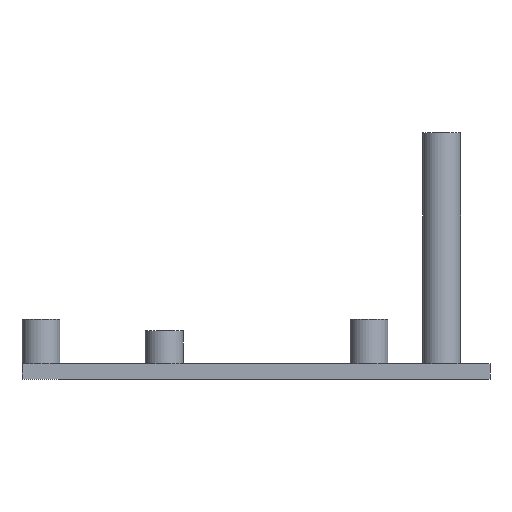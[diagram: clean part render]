
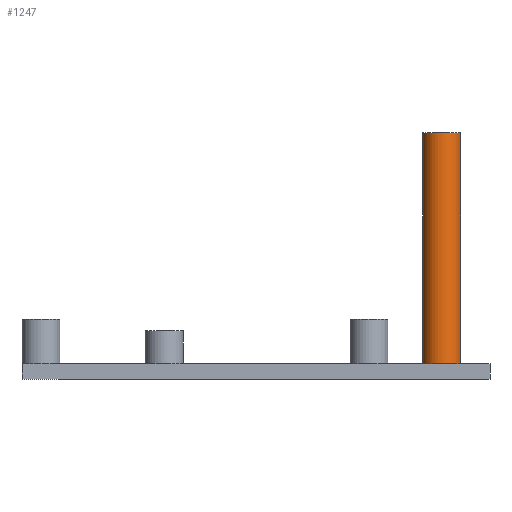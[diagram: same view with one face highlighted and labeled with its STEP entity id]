
A CAD part, front view. The second image highlights one B-rep face of the part: STEP entity #1247.
In plain terms, the highlighted cylindrical face has radius 3 mm (diameter 6 mm), a full revolution.
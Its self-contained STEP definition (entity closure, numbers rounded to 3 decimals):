
#45 = PLANE('',#46);
#46 = AXIS2_PLACEMENT_3D('',#47,#48,#49);
#47 = CARTESIAN_POINT('',(-25.438,-35.,5.46));
#48 = DIRECTION('',(0.,0.,1.));
#49 = DIRECTION('',(1.,0.,0.));
#522 = EDGE_CURVE('',#523,#523,#525,.T.);
#523 = VERTEX_POINT('',#524);
#524 = CARTESIAN_POINT('',(7.,-35.,5.46));
#525 = SURFACE_CURVE('',#526,(#531,#538),.PCURVE_S1.);
#526 = CIRCLE('',#527,3.);
#527 = AXIS2_PLACEMENT_3D('',#528,#529,#530);
#528 = CARTESIAN_POINT('',(4.,-35.,5.46));
#529 = DIRECTION('',(0.,0.,1.));
#530 = DIRECTION('',(1.,0.,0.));
#531 = PCURVE('',#45,#532);
#532 = DEFINITIONAL_REPRESENTATION('',(#533),#537);
#533 = CIRCLE('',#534,3.);
#534 = AXIS2_PLACEMENT_2D('',#535,#536);
#535 = CARTESIAN_POINT('',(29.438,0.));
#536 = DIRECTION('',(1.,0.));
#537 = ( GEOMETRIC_REPRESENTATION_CONTEXT(2) 
PARAMETRIC_REPRESENTATION_CONTEXT() REPRESENTATION_CONTEXT('2D SPACE',''
  ) );
#538 = PCURVE('',#539,#544);
#539 = CYLINDRICAL_SURFACE('',#540,3.);
#540 = AXIS2_PLACEMENT_3D('',#541,#542,#543);
#541 = CARTESIAN_POINT('',(4.,-35.,5.46));
#542 = DIRECTION('',(-0.,-0.,-1.));
#543 = DIRECTION('',(1.,0.,0.));
#544 = DEFINITIONAL_REPRESENTATION('',(#545),#549);
#545 = LINE('',#546,#547);
#546 = CARTESIAN_POINT('',(-0.,0.));
#547 = VECTOR('',#548,1.);
#548 = DIRECTION('',(-1.,0.));
#549 = ( GEOMETRIC_REPRESENTATION_CONTEXT(2) 
PARAMETRIC_REPRESENTATION_CONTEXT() REPRESENTATION_CONTEXT('2D SPACE',''
  ) );
#1247 = ADVANCED_FACE('',(#1248),#539,.T.);
#1248 = FACE_BOUND('',#1249,.F.);
#1249 = EDGE_LOOP('',(#1250,#1273,#1300,#1301));
#1250 = ORIENTED_EDGE('',*,*,#1251,.T.);
#1251 = EDGE_CURVE('',#523,#1252,#1254,.T.);
#1252 = VERTEX_POINT('',#1253);
#1253 = CARTESIAN_POINT('',(7.,-35.,42.04));
#1254 = SEAM_CURVE('',#1255,(#1259,#1266),.PCURVE_S1.);
#1255 = LINE('',#1256,#1257);
#1256 = CARTESIAN_POINT('',(7.,-35.,5.46));
#1257 = VECTOR('',#1258,1.);
#1258 = DIRECTION('',(0.,0.,1.));
#1259 = PCURVE('',#539,#1260);
#1260 = DEFINITIONAL_REPRESENTATION('',(#1261),#1265);
#1261 = LINE('',#1262,#1263);
#1262 = CARTESIAN_POINT('',(-0.,0.));
#1263 = VECTOR('',#1264,1.);
#1264 = DIRECTION('',(-0.,-1.));
#1265 = ( GEOMETRIC_REPRESENTATION_CONTEXT(2) 
PARAMETRIC_REPRESENTATION_CONTEXT() REPRESENTATION_CONTEXT('2D SPACE',''
  ) );
#1266 = PCURVE('',#539,#1267);
#1267 = DEFINITIONAL_REPRESENTATION('',(#1268),#1272);
#1268 = LINE('',#1269,#1270);
#1269 = CARTESIAN_POINT('',(-6.283,0.));
#1270 = VECTOR('',#1271,1.);
#1271 = DIRECTION('',(-0.,-1.));
#1272 = ( GEOMETRIC_REPRESENTATION_CONTEXT(2) 
PARAMETRIC_REPRESENTATION_CONTEXT() REPRESENTATION_CONTEXT('2D SPACE',''
  ) );
#1273 = ORIENTED_EDGE('',*,*,#1274,.T.);
#1274 = EDGE_CURVE('',#1252,#1252,#1275,.T.);
#1275 = SURFACE_CURVE('',#1276,(#1281,#1288),.PCURVE_S1.);
#1276 = CIRCLE('',#1277,3.);
#1277 = AXIS2_PLACEMENT_3D('',#1278,#1279,#1280);
#1278 = CARTESIAN_POINT('',(4.,-35.,42.04));
#1279 = DIRECTION('',(0.,0.,1.));
#1280 = DIRECTION('',(1.,0.,0.));
#1281 = PCURVE('',#539,#1282);
#1282 = DEFINITIONAL_REPRESENTATION('',(#1283),#1287);
#1283 = LINE('',#1284,#1285);
#1284 = CARTESIAN_POINT('',(-0.,-36.58));
#1285 = VECTOR('',#1286,1.);
#1286 = DIRECTION('',(-1.,0.));
#1287 = ( GEOMETRIC_REPRESENTATION_CONTEXT(2) 
PARAMETRIC_REPRESENTATION_CONTEXT() REPRESENTATION_CONTEXT('2D SPACE',''
  ) );
#1288 = PCURVE('',#1289,#1294);
#1289 = PLANE('',#1290);
#1290 = AXIS2_PLACEMENT_3D('',#1291,#1292,#1293);
#1291 = CARTESIAN_POINT('',(4.,-35.,42.04));
#1292 = DIRECTION('',(0.,0.,1.));
#1293 = DIRECTION('',(1.,0.,0.));
#1294 = DEFINITIONAL_REPRESENTATION('',(#1295),#1299);
#1295 = CIRCLE('',#1296,3.);
#1296 = AXIS2_PLACEMENT_2D('',#1297,#1298);
#1297 = CARTESIAN_POINT('',(0.,0.));
#1298 = DIRECTION('',(1.,0.));
#1299 = ( GEOMETRIC_REPRESENTATION_CONTEXT(2) 
PARAMETRIC_REPRESENTATION_CONTEXT() REPRESENTATION_CONTEXT('2D SPACE',''
  ) );
#1300 = ORIENTED_EDGE('',*,*,#1251,.F.);
#1301 = ORIENTED_EDGE('',*,*,#522,.F.);
